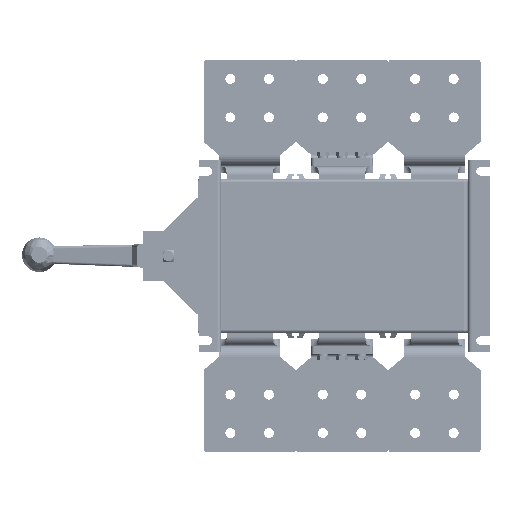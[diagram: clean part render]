
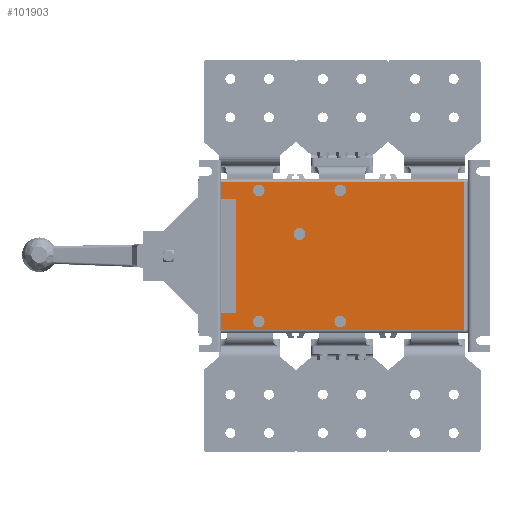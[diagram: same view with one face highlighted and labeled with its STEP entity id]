
A CAD part, front view. The second image highlights one B-rep face of the part: STEP entity #101903.
In plain terms, the highlighted planar face has unit normal (0, -1, 0) as drawn and (0, 1, 0) by its records, which use the part's own axes.
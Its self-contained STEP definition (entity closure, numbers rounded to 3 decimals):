
#100380=DIRECTION('',(0.,0.,-1.));
#100381=VECTOR('',#100380,21.2);
#100382=CARTESIAN_POINT('',(-107.7,55.5,95.85));
#100383=LINE('',#100382,#100381);
#100387=DIRECTION('',(0.,0.,-1.));
#100388=VECTOR('',#100387,21.2);
#100389=CARTESIAN_POINT('',(-107.7,55.5,-74.65));
#100390=LINE('',#100389,#100388);
#100394=CARTESIAN_POINT('',(-56.,55.5,85.2));
#100395=DIRECTION('',(0.,1.,0.));
#100396=DIRECTION('',(0.,0.,1.));
#100397=AXIS2_PLACEMENT_3D('',#100394,#100395,#100396);
#100402=CARTESIAN_POINT('',(-56.,55.5,85.2));
#100403=DIRECTION('',(0.,1.,0.));
#100404=DIRECTION('',(0.,0.,-1.));
#100405=AXIS2_PLACEMENT_3D('',#100402,#100403,#100404);
#100410=CARTESIAN_POINT('',(50.,55.5,-85.2));
#100411=DIRECTION('',(0.,1.,0.));
#100412=DIRECTION('',(0.,0.,1.));
#100413=AXIS2_PLACEMENT_3D('',#100410,#100411,#100412);
#100418=CARTESIAN_POINT('',(50.,55.5,-85.2));
#100419=DIRECTION('',(0.,1.,0.));
#100420=DIRECTION('',(0.,0.,-1.));
#100421=AXIS2_PLACEMENT_3D('',#100418,#100419,#100420);
#100426=CARTESIAN_POINT('',(50.,55.5,85.2));
#100427=DIRECTION('',(0.,1.,0.));
#100428=DIRECTION('',(0.,0.,1.));
#100429=AXIS2_PLACEMENT_3D('',#100426,#100427,#100428);
#100434=CARTESIAN_POINT('',(50.,55.5,85.2));
#100435=DIRECTION('',(0.,1.,0.));
#100436=DIRECTION('',(0.,0.,-1.));
#100437=AXIS2_PLACEMENT_3D('',#100434,#100435,#100436);
#100442=CARTESIAN_POINT('',(-3.,55.5,-28.55));
#100443=DIRECTION('',(0.,1.,0.));
#100444=DIRECTION('',(0.,0.,1.));
#100445=AXIS2_PLACEMENT_3D('',#100442,#100443,#100444);
#100450=CARTESIAN_POINT('',(-3.,55.5,-28.55));
#100451=DIRECTION('',(0.,1.,0.));
#100452=DIRECTION('',(0.,0.,-1.));
#100453=AXIS2_PLACEMENT_3D('',#100450,#100451,#100452);
#100458=CARTESIAN_POINT('',(-56.,55.5,-85.2));
#100459=DIRECTION('',(0.,1.,0.));
#100460=DIRECTION('',(0.,0.,1.));
#100461=AXIS2_PLACEMENT_3D('',#100458,#100459,#100460);
#100466=CARTESIAN_POINT('',(-56.,55.5,-85.2));
#100467=DIRECTION('',(0.,1.,0.));
#100468=DIRECTION('',(0.,0.,-1.));
#100469=AXIS2_PLACEMENT_3D('',#100466,#100467,#100468);
#100481=DIRECTION('',(1.,0.,0.));
#100482=VECTOR('',#100481,318.2);
#100483=CARTESIAN_POINT('',(-107.7,55.5,95.85));
#100484=LINE('',#100483,#100482);
#100509=DIRECTION('',(-1.,0.,0.));
#100510=VECTOR('',#100509,22.2);
#100511=CARTESIAN_POINT('',(-85.5,55.5,74.65));
#100512=LINE('',#100511,#100510);
#100706=DIRECTION('',(1.,0.,0.));
#100707=VECTOR('',#100706,22.2);
#100708=CARTESIAN_POINT('',(-107.7,55.5,-74.65));
#100709=LINE('',#100708,#100707);
#100734=DIRECTION('',(0.,0.,1.));
#100735=VECTOR('',#100734,149.3);
#100736=CARTESIAN_POINT('',(-85.5,55.5,-74.65));
#100737=LINE('',#100736,#100735);
#100905=DIRECTION('',(0.,0.,-1.));
#100906=VECTOR('',#100905,191.7);
#100907=CARTESIAN_POINT('',(210.5,55.5,95.85));
#100908=LINE('',#100907,#100906);
#100919=DIRECTION('',(-1.,0.,0.));
#100920=VECTOR('',#100919,318.2);
#100921=CARTESIAN_POINT('',(210.5,55.5,-95.85));
#100922=LINE('',#100921,#100920);
#101092=CARTESIAN_POINT('',(210.5,55.5,95.85));
#101093=VERTEX_POINT('',#101092);
#101100=CARTESIAN_POINT('',(-107.7,55.5,74.65));
#101101=VERTEX_POINT('',#101100);
#101102=CARTESIAN_POINT('',(-107.7,55.5,95.85));
#101103=VERTEX_POINT('',#101102);
#101202=CARTESIAN_POINT('',(-56.,55.5,-92.8));
#101203=VERTEX_POINT('',#101202);
#101204=CARTESIAN_POINT('',(-56.,55.5,-77.6));
#101205=VERTEX_POINT('',#101204);
#101206=CARTESIAN_POINT('',(-85.5,55.5,74.65));
#101207=VERTEX_POINT('',#101206);
#101208=CARTESIAN_POINT('',(-85.5,55.5,-74.65));
#101209=VERTEX_POINT('',#101208);
#101210=CARTESIAN_POINT('',(-107.7,55.5,-74.65));
#101211=VERTEX_POINT('',#101210);
#101212=CARTESIAN_POINT('',(-107.7,55.5,-95.85));
#101213=VERTEX_POINT('',#101212);
#101214=CARTESIAN_POINT('',(210.5,55.5,-95.85));
#101215=VERTEX_POINT('',#101214);
#101216=CARTESIAN_POINT('',(-56.,55.5,92.8));
#101217=CARTESIAN_POINT('',(-56.,55.5,77.6));
#101218=VERTEX_POINT('',#101216);
#101219=VERTEX_POINT('',#101217);
#101220=CARTESIAN_POINT('',(50.,55.5,-77.6));
#101221=CARTESIAN_POINT('',(50.,55.5,-92.8));
#101222=VERTEX_POINT('',#101220);
#101223=VERTEX_POINT('',#101221);
#101224=CARTESIAN_POINT('',(50.,55.5,92.8));
#101225=CARTESIAN_POINT('',(50.,55.5,77.6));
#101226=VERTEX_POINT('',#101224);
#101227=VERTEX_POINT('',#101225);
#101228=CARTESIAN_POINT('',(-3.,55.5,-20.86));
#101229=CARTESIAN_POINT('',(-3.,55.5,-36.24));
#101230=VERTEX_POINT('',#101228);
#101231=VERTEX_POINT('',#101229);
#101853=CARTESIAN_POINT('',(0.,55.5,0.));
#101854=DIRECTION('',(0.,-1.,0.));
#101855=DIRECTION('',(0.,0.,-1.));
#101856=AXIS2_PLACEMENT_3D('',#101853,#101854,#101855);
#101857=PLANE('',#101856);
#101859=ORIENTED_EDGE('',*,*,#101858,.F.);
#101860=ORIENTED_EDGE('',*,*,#101414,.T.);
#101862=ORIENTED_EDGE('',*,*,#101861,.F.);
#101864=ORIENTED_EDGE('',*,*,#101863,.F.);
#101866=ORIENTED_EDGE('',*,*,#101865,.F.);
#101868=ORIENTED_EDGE('',*,*,#101867,.T.);
#101870=ORIENTED_EDGE('',*,*,#101869,.F.);
#101872=ORIENTED_EDGE('',*,*,#101871,.F.);
#101873=EDGE_LOOP('',(#101859,#101860,#101862,#101864,#101866,#101868,#101870,
#101872));
#101874=FACE_OUTER_BOUND('',#101873,.F.);
#101876=ORIENTED_EDGE('',*,*,#101875,.T.);
#101878=ORIENTED_EDGE('',*,*,#101877,.T.);
#101879=EDGE_LOOP('',(#101876,#101878));
#101880=FACE_BOUND('',#101879,.F.);
#101882=ORIENTED_EDGE('',*,*,#101881,.T.);
#101884=ORIENTED_EDGE('',*,*,#101883,.T.);
#101885=EDGE_LOOP('',(#101882,#101884));
#101886=FACE_BOUND('',#101885,.F.);
#101888=ORIENTED_EDGE('',*,*,#101887,.T.);
#101890=ORIENTED_EDGE('',*,*,#101889,.T.);
#101891=EDGE_LOOP('',(#101888,#101890));
#101892=FACE_BOUND('',#101891,.F.);
#101894=ORIENTED_EDGE('',*,*,#101893,.T.);
#101896=ORIENTED_EDGE('',*,*,#101895,.T.);
#101897=EDGE_LOOP('',(#101894,#101896));
#101898=FACE_BOUND('',#101897,.F.);
#101899=ORIENTED_EDGE('',*,*,#101832,.T.);
#101900=ORIENTED_EDGE('',*,*,#101847,.T.);
#101901=EDGE_LOOP('',(#101899,#101900));
#101902=FACE_BOUND('',#101901,.F.);
#100398=CIRCLE('',#100397,7.6);
#100406=CIRCLE('',#100405,7.6);
#100414=CIRCLE('',#100413,7.6);
#100422=CIRCLE('',#100421,7.6);
#100430=CIRCLE('',#100429,7.6);
#100438=CIRCLE('',#100437,7.6);
#100446=CIRCLE('',#100445,7.69);
#100454=CIRCLE('',#100453,7.69);
#100462=CIRCLE('',#100461,7.6);
#100470=CIRCLE('',#100469,7.6);
#101414=EDGE_CURVE('',#101103,#101101,#100383,.T.);
#101832=EDGE_CURVE('',#101205,#101203,#100462,.T.);
#101847=EDGE_CURVE('',#101203,#101205,#100470,.T.);
#101858=EDGE_CURVE('',#101103,#101093,#100484,.T.);
#101861=EDGE_CURVE('',#101207,#101101,#100512,.T.);
#101863=EDGE_CURVE('',#101209,#101207,#100737,.T.);
#101865=EDGE_CURVE('',#101211,#101209,#100709,.T.);
#101867=EDGE_CURVE('',#101211,#101213,#100390,.T.);
#101869=EDGE_CURVE('',#101215,#101213,#100922,.T.);
#101871=EDGE_CURVE('',#101093,#101215,#100908,.T.);
#101875=EDGE_CURVE('',#101218,#101219,#100398,.T.);
#101877=EDGE_CURVE('',#101219,#101218,#100406,.T.);
#101881=EDGE_CURVE('',#101222,#101223,#100414,.T.);
#101883=EDGE_CURVE('',#101223,#101222,#100422,.T.);
#101887=EDGE_CURVE('',#101226,#101227,#100430,.T.);
#101889=EDGE_CURVE('',#101227,#101226,#100438,.T.);
#101893=EDGE_CURVE('',#101230,#101231,#100446,.T.);
#101895=EDGE_CURVE('',#101231,#101230,#100454,.T.);
#101903=ADVANCED_FACE('',(#101874,#101880,#101886,#101892,#101898,#101902),
#101857,.F.);
